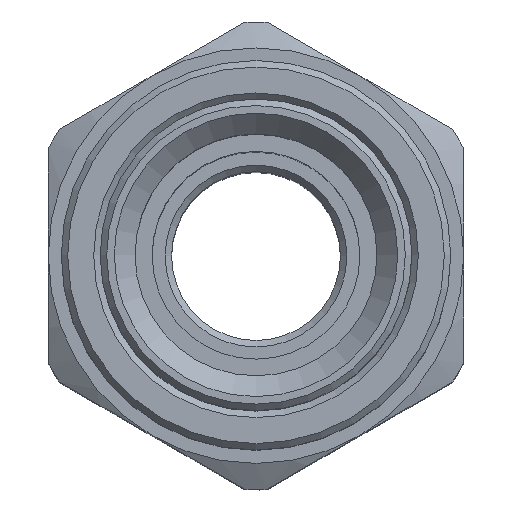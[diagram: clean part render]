
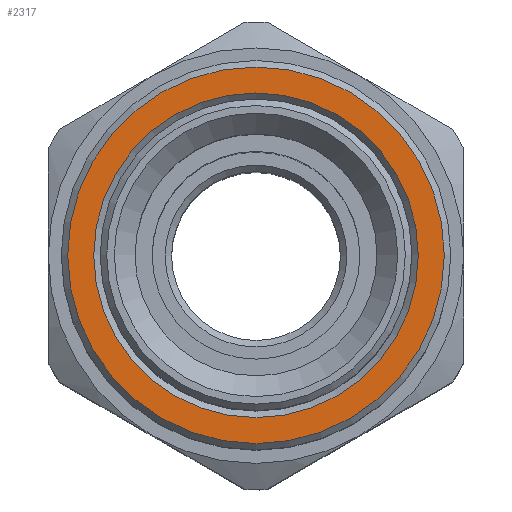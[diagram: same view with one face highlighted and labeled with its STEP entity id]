
A CAD part, top view. The second image highlights one B-rep face of the part: STEP entity #2317.
In plain terms, the highlighted planar face has unit normal (0, 0, 1).
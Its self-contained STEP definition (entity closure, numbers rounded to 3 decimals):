
#2286=CARTESIAN_POINT('',(12.5,0.,73.5));
#2287=VERTEX_POINT('',#2286);
#2288=CARTESIAN_POINT('',(0.,0.,73.5));
#2289=DIRECTION('',(0.0,0.0,1.0));
#2290=DIRECTION('',(-1.0,0.0,0.0));
#2291=AXIS2_PLACEMENT_3D('',#2288,#2289,#2290);
#2292=CIRCLE('',#2291,12.5);
#2293=EDGE_CURVE('',#2287,#2287,#2292,.T.);
#2298=CARTESIAN_POINT('',(0.,0.,73.5));
#2299=DIRECTION('',(0.0,0.0,1.0));
#2300=DIRECTION('',(1.0,0.0,0.0));
#2301=AXIS2_PLACEMENT_3D('',#2298,#2299,#2300);
#2302=PLANE('',#2301);
#2303=CARTESIAN_POINT('',(14.5,0.,73.5));
#2304=VERTEX_POINT('',#2303);
#2305=CARTESIAN_POINT('',(0.,0.,73.5));
#2306=DIRECTION('',(0.0,0.0,-1.0));
#2307=DIRECTION('',(-1.0,0.0,0.0));
#2308=AXIS2_PLACEMENT_3D('',#2305,#2306,#2307);
#2309=CIRCLE('',#2308,14.5);
#2310=EDGE_CURVE('',#2304,#2304,#2309,.T.);
#2311=ORIENTED_EDGE('',*,*,#2310,.F.);
#2312=EDGE_LOOP('',(#2311));
#2313=FACE_OUTER_BOUND('',#2312,.T.);
#2314=ORIENTED_EDGE('',*,*,#2293,.F.);
#2315=EDGE_LOOP('',(#2314));
#2316=FACE_BOUND('',#2315,.T.);
#2317=ADVANCED_FACE('',(#2313,#2316),#2302,.T.);
